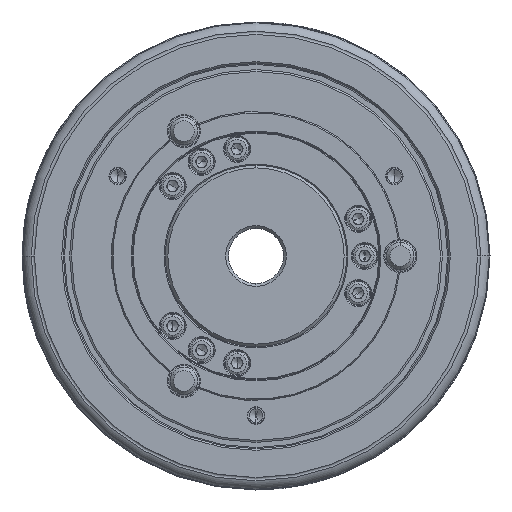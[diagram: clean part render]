
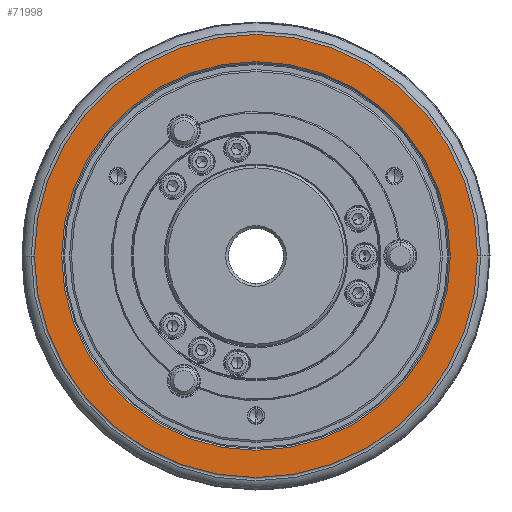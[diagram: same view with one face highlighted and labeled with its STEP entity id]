
A CAD part, left-side view. The second image highlights one B-rep face of the part: STEP entity #71998.
In plain terms, the highlighted planar face has unit normal (-1, 0, 0).
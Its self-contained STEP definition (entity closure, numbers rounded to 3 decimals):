
#183 = AXIS2_PLACEMENT_3D ( 'NONE', #9835, #3017, #65690 ) ;
#2642 = EDGE_CURVE ( 'NONE', #68011, #36580, #31097, .T. ) ;
#3017 = DIRECTION ( 'NONE',  ( 1., 0., 0. ) ) ;
#5097 = DIRECTION ( 'NONE',  ( 1., 0., 0. ) ) ;
#5501 = CARTESIAN_POINT ( 'NONE',  ( -81., 0., 0. ) ) ;
#6882 = VERTEX_POINT ( 'NONE', #89689 ) ;
#7055 = ORIENTED_EDGE ( 'NONE', *, *, #2642, .T. ) ;
#7886 = EDGE_CURVE ( 'NONE', #36580, #68011, #44585, .T. ) ;
#9835 = CARTESIAN_POINT ( 'NONE',  ( -81., 0., 0. ) ) ;
#14300 = AXIS2_PLACEMENT_3D ( 'NONE', #44989, #72218, #52683 ) ;
#17006 = AXIS2_PLACEMENT_3D ( 'NONE', #26610, #89263, #46160 ) ;
#17269 = FACE_OUTER_BOUND ( 'NONE', #86788, .T. ) ;
#17367 = ORIENTED_EDGE ( 'NONE', *, *, #7886, .T. ) ;
#18177 = FACE_BOUND ( 'NONE', #53302, .T. ) ;
#26239 = ORIENTED_EDGE ( 'NONE', *, *, #44279, .F. ) ;
#26610 = CARTESIAN_POINT ( 'NONE',  ( -81., 0., 0. ) ) ;
#28230 = AXIS2_PLACEMENT_3D ( 'NONE', #5501, #60900, #74995 ) ;
#31097 = CIRCLE ( 'NONE', #81866, 70.6 ) ;
#33551 = EDGE_CURVE ( 'NONE', #6882, #45254, #84825, .T. ) ;
#36580 = VERTEX_POINT ( 'NONE', #56451 ) ;
#37861 = CIRCLE ( 'NONE', #183, 80.5 ) ;
#43117 = ORIENTED_EDGE ( 'NONE', *, *, #33551, .F. ) ;
#44279 = EDGE_CURVE ( 'NONE', #45254, #6882, #37861, .T. ) ;
#44585 = CIRCLE ( 'NONE', #17006, 70.6 ) ;
#44989 = CARTESIAN_POINT ( 'NONE',  ( -81., 35.3, -61.141 ) ) ;
#45254 = VERTEX_POINT ( 'NONE', #58908 ) ;
#46160 = DIRECTION ( 'NONE',  ( 0., 0., -1. ) ) ;
#52683 = DIRECTION ( 'NONE',  ( 0., 0., 1. ) ) ;
#53302 = EDGE_LOOP ( 'NONE', ( #7055, #17367 ) ) ;
#56451 = CARTESIAN_POINT ( 'NONE',  ( -81., 0., -70.6 ) ) ;
#58908 = CARTESIAN_POINT ( 'NONE',  ( -81., 80.5, 0. ) ) ;
#60900 = DIRECTION ( 'NONE',  ( 1., 0., 0. ) ) ;
#65690 = DIRECTION ( 'NONE',  ( 0., 1., 0. ) ) ;
#66860 = CARTESIAN_POINT ( 'NONE',  ( -81., 0., 0. ) ) ;
#68011 = VERTEX_POINT ( 'NONE', #82486 ) ;
#71998 = ADVANCED_FACE ( 'NONE', ( #17269, #18177 ), #80847, .T. ) ;
#72218 = DIRECTION ( 'NONE',  ( -1., 0., 0. ) ) ;
#73689 = DIRECTION ( 'NONE',  ( 0., 0., -1. ) ) ;
#74995 = DIRECTION ( 'NONE',  ( 0., 1., 0. ) ) ;
#80847 = PLANE ( 'NONE',  #14300 ) ;
#81866 = AXIS2_PLACEMENT_3D ( 'NONE', #66860, #5097, #73689 ) ;
#82486 = CARTESIAN_POINT ( 'NONE',  ( -81., 0., 70.6 ) ) ;
#84825 = CIRCLE ( 'NONE', #28230, 80.5 ) ;
#86788 = EDGE_LOOP ( 'NONE', ( #26239, #43117 ) ) ;
#89263 = DIRECTION ( 'NONE',  ( 1., 0., 0. ) ) ;
#89689 = CARTESIAN_POINT ( 'NONE',  ( -81., -80.5, 0. ) ) ;
